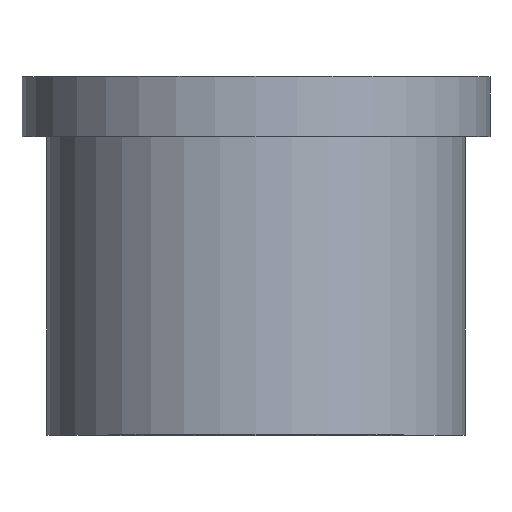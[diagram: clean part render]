
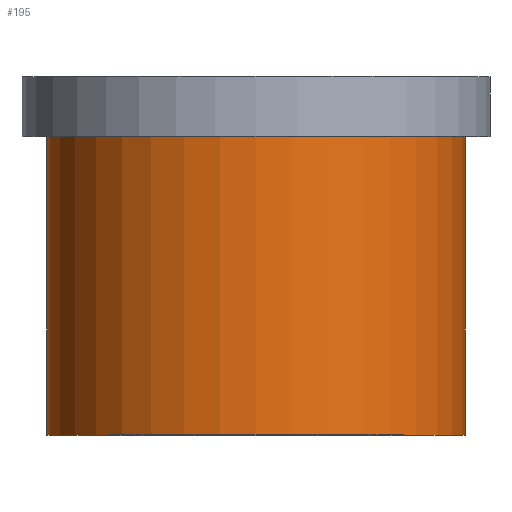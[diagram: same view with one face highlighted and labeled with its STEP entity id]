
A CAD part, top view. The second image highlights one B-rep face of the part: STEP entity #195.
In plain terms, the highlighted cylindrical face has radius 21 mm (diameter 42 mm), a full revolution.
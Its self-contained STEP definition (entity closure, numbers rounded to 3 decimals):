
#32=ORIENTED_EDGE('',*,*,#50,.T.);
#33=ORIENTED_EDGE('',*,*,#49,.F.);
#49=EDGE_CURVE('',#59,#59,#69,.T.);
#50=EDGE_CURVE('',#60,#60,#70,.T.);
#59=VERTEX_POINT('',#280);
#60=VERTEX_POINT('',#283);
#69=CIRCLE('',#213,21.);
#70=CIRCLE('',#215,21.);
#82=EDGE_LOOP('',(#32));
#83=EDGE_LOOP('',(#33));
#102=FACE_BOUND('',#82,.T.);
#103=FACE_BOUND('',#83,.T.);
#117=CYLINDRICAL_SURFACE('',#214,21.);
#195=ADVANCED_FACE('',(#102,#103),#117,.T.);
#213=AXIS2_PLACEMENT_3D('',#279,#241,#242);
#214=AXIS2_PLACEMENT_3D('',#281,#243,#244);
#215=AXIS2_PLACEMENT_3D('',#282,#245,#246);
#241=DIRECTION('',(0.,-1.,0.));
#242=DIRECTION('',(0.,0.,-1.));
#243=DIRECTION('',(0.,-1.,0.));
#244=DIRECTION('',(0.,0.,-1.));
#245=DIRECTION('',(0.,-1.,0.));
#246=DIRECTION('',(0.,0.,-1.));
#279=CARTESIAN_POINT('',(0.,0.,0.));
#280=CARTESIAN_POINT('',(0.,0.,-21.));
#281=CARTESIAN_POINT('',(0.,0.,0.));
#282=CARTESIAN_POINT('',(0.,30.,0.));
#283=CARTESIAN_POINT('',(0.,30.,-21.));
